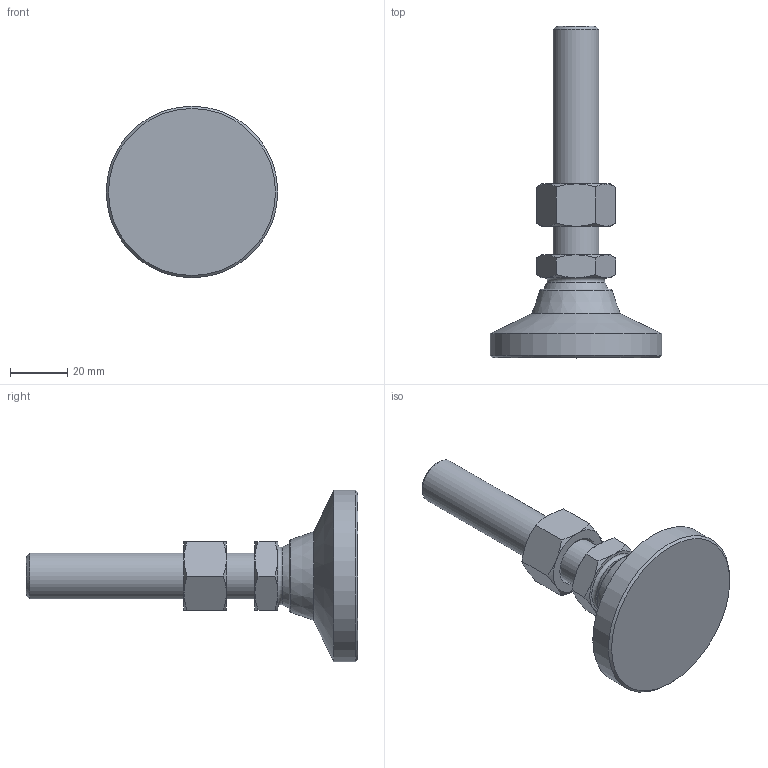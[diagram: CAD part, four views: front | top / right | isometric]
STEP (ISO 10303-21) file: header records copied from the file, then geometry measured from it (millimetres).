
FILE_DESCRIPTION( ( 'STEP AP214' ), ' ' );
FILE_NAME( 'O:/ganter_2015/teil_2/2_5/gn343_2/gn343_2_os/Levelling foot with threaded stud GN 343.2-60-M16-80-OS-(0).stp', '2015-10-26T09:08:28', ( '' ), ( '' ), ' ', 'PARTsolutions', ' ' );
FILE_SCHEMA( ( 'AUTOMOTIVE_DESIGN { 1 0 10303 214 1 1 1 1 }' ) );
Length unit declared in the file: millimetre
Products named in the file (4): Levelling foot with threaded stud GN 343.2-60-M16-80-OS-(0); _Levelling foot with threaded stud GN 343.2-60-M16-80-OS-(0)_foot; _Levelling foot with threaded stud GN 343.2-60-M16-80-OS-(0)_screw; _Stainless Steel-Levelling feet GN 343.2-60-M16-80-OS-(0)_nut
Assembly tree (3 placements, depth 2):
  Levelling foot with threaded stud GN 343.2-60-M16-80-OS-(0)
    _Levelling foot with threaded stud GN 343.2-60-M16-80-OS-(0)_foot
    _Levelling foot with threaded stud GN 343.2-60-M16-80-OS-(0)_screw
    _Stainless Steel-Levelling feet GN 343.2-60-M16-80-OS-(0)_nut
Bounding box: 60 x 116 x 60 mm (x, y, z)
Volume: 67427.3 mm3; surface area: 17762.1 mm2
Topology: 3 solids, 3 shells, 56 faces, 117 edges, 68 vertices
Faces by surface type: cone 30, plane 19, cylinder 3, torus 2, sphere 2
Full cylindrical faces by diameter (mm): 13.835 x1, 16 x1, 60 x1
Entity records: 2082 total; most frequent: CARTESIAN_POINT 514, DIRECTION 212, ORIENTED_EDGE 200, AXIS2_PLACEMENT_3D 100, EDGE_CURVE 100, EDGE_LOOP 72, VERTEX_POINT 66, FACE_OUTER_BOUND 61
